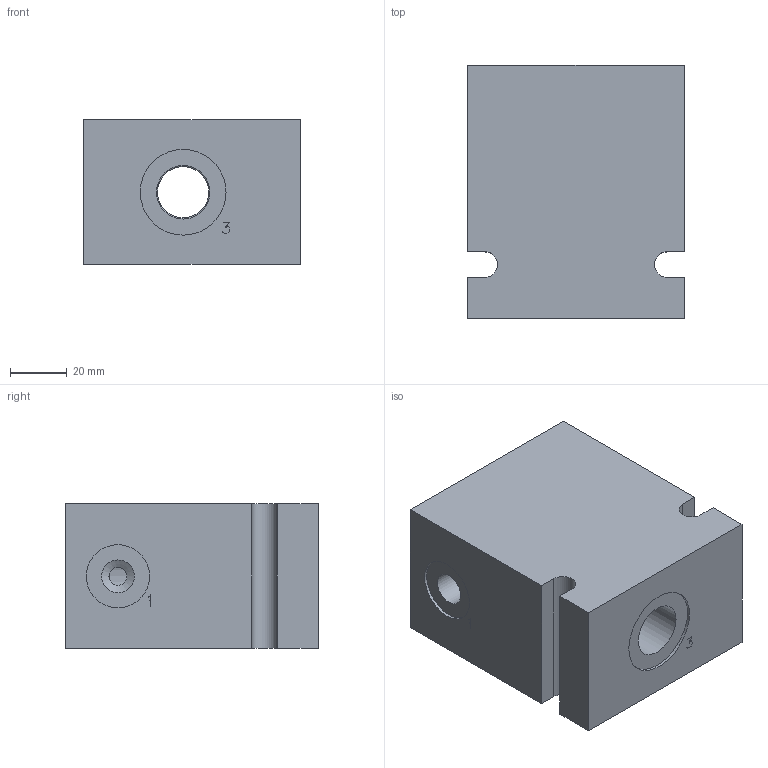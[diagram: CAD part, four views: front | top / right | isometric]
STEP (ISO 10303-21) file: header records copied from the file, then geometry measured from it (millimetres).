
FILE_DESCRIPTION( ( 'Unknown' ), '1' );
FILE_NAME( 'G:/Graphic Design/Graphic Design 2/Data Sheets/Delta Bodies/DRAWINGS/B-DTRC3.stp', 'Unknown', ( 'Unknown' ), ( 'Unknown' ), 'PSStep 16.0.42', 'Unknown', ' ' );
FILE_SCHEMA( ( 'AUTOMOTIVE_DESIGN { 1 0 10303 214 1 1 1 1 }' ) );
Length unit declared in the file: millimetre
Products named in the file (2): Assem1; B-DTRC3
Assembly tree (1 placements, depth 2):
  Assem1
    B-DTRC3
Bounding box: 76.2 x 88.9 x 50.8 mm (x, y, z)
Surface area: 39329.7 mm2 (no closed solid volume)
Topology: 0 solids, 131 shells, 131 faces, 631 edges, 595 vertices
Faces by surface type: plane 93, cylinder 27, cone 11
Full cylindrical faces by diameter (mm): 0.2 x3, 6.3 x1, 11.5 x2, 12 x1, 18 x1, 18.8 x4, 20 x1, 22.22 x1, 22.25 x1, 22.26 x1, 23.825 x1, 23.83 x1, 23.84 x1, 24.689 x1, 24.696 x2, 30.17 x2, 41.275 x1
Entity records: 6984 total; most frequent: CARTESIAN_POINT 1853, DIRECTION 672, ORIENTED_EDGE 576, EDGE_CURVE 576, VERTEX_POINT 576, B_SPLINE_CURVE_WITH_KNOTS 274, AXIS2_PLACEMENT_3D 237, LINE 198
